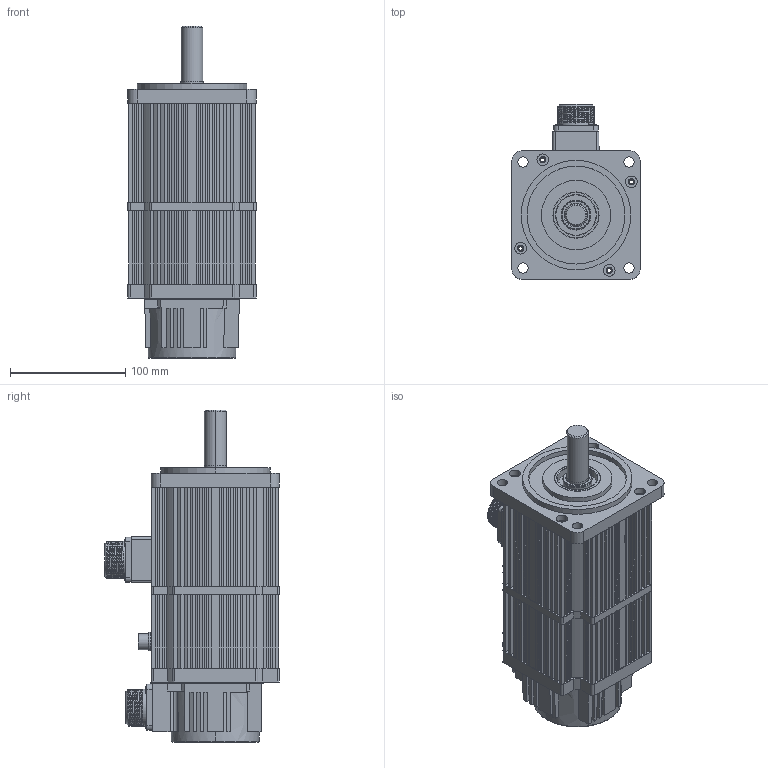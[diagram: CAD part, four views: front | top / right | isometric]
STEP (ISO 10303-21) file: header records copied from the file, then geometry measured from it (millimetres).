
FILE_DESCRIPTION (( 'STEP AP203' ), '1' );
FILE_NAME ('110电磁抱闸2N.M.STEP', '2017-02-22T07:02:48', ( '中国系统网V16.0' ), ( '中国系统网V16.0' ), 'SwSTEP 2.0', 'SolidWorks 2014', '' );
FILE_SCHEMA (( 'CONFIG_CONTROL_DESIGN' ));
Length unit declared in the file: millimetre
Products named in the file (15): 110晤鎢ん脣芛; 粣創6304ㄗ110炵蹈ㄘ; 110瑤船; 110蛌粣; 80三芯航插（永磁抱闸）; 110蚐猾; 110萇棠惕掅2N.M; 110綴傷裔; 110儂褲(惕掅); 110綴傷裔惕掅; 110儂褲(2NM); 110綴欶砎蝶菜; 110ヶ傷裔; 110綴欶; 粣創6204ㄗ110炵蹈ㄘ
Assembly tree (14 placements, depth 2):
  110萇棠惕掅2N.M
    110儂褲(2NM)
    110ヶ傷裔
    粣創6204ㄗ110炵蹈ㄘ
    粣創6304ㄗ110炵蹈ㄘ
    110蛌粣
    110蚐猾
    110綴傷裔
    110儂褲(惕掅)
    110綴傷裔惕掅
    110綴欶砎蝶菜
    110綴欶
    110晤鎢ん脣芛
    110瑤船
    80三芯航插（永磁抱闸）
Bounding box: 111.2 x 151.6 x 288 mm (x, y, z)
Volume: 919132.1 mm3; surface area: 443819.8 mm2
Topology: 17 solids, 17 shells, 1515 faces, 4599 edges, 3011 vertices
Faces by surface type: plane 761, cylinder 539, sphere 131, torus 42, cone 40, bspline 2
Entity records: 57992 total; most frequent: CARTESIAN_POINT 16954, ORIENTED_EDGE 8388, DIRECTION 8141, EDGE_CURVE 4194, AXIS2_PLACEMENT_3D 2859, VERTEX_POINT 2755, LINE 2423, VECTOR 2423
